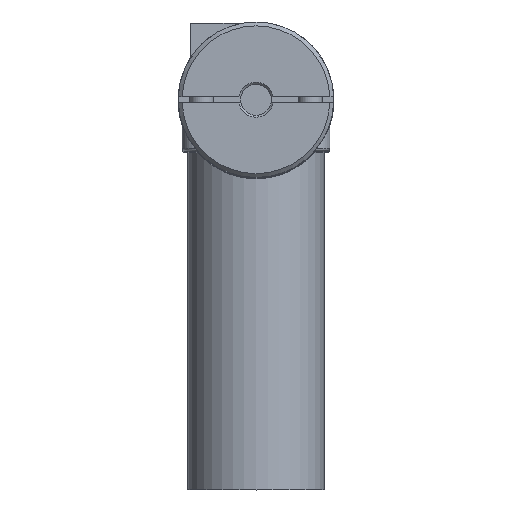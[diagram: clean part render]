
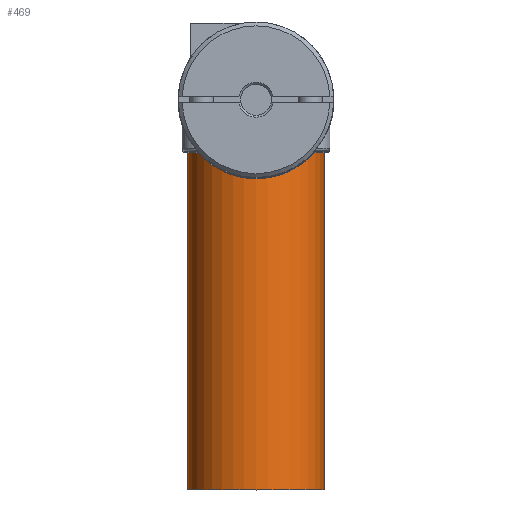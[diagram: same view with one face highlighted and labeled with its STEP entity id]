
A CAD part, top view. The second image highlights one B-rep face of the part: STEP entity #469.
In plain terms, the highlighted cylindrical face has radius 17.5 mm (diameter 35 mm), a full revolution.
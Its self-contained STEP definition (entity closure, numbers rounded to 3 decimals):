
#469 = ADVANCED_FACE( '', ( #950, #951 ), #952, .T. );
#950 = FACE_OUTER_BOUND( '', #1429, .T. );
#951 = FACE_OUTER_BOUND( '', #1430, .T. );
#952 = CYLINDRICAL_SURFACE( '', #1431, 17.5 );
#1429 = EDGE_LOOP( '', ( #2705 ) );
#1430 = EDGE_LOOP( '', ( #2706 ) );
#1431 = AXIS2_PLACEMENT_3D( '', #2707, #2708, #2709 );
#2705 = ORIENTED_EDGE( '', *, *, #3533, .T. );
#2706 = ORIENTED_EDGE( '', *, *, #3534, .F. );
#2707 = CARTESIAN_POINT( '', ( 0., -100., 0. ) );
#2708 = DIRECTION( '', ( 0., -1., 0. ) );
#2709 = DIRECTION( '', ( 0., 0., 1. ) );
#3533 = EDGE_CURVE( '', #4218, #4218, #4219, .T. );
#3534 = EDGE_CURVE( '', #4220, #4220, #4221, .T. );
#4218 = VERTEX_POINT( '', #5518 );
#4219 = CIRCLE( '', #5519, 17.5 );
#4220 = VERTEX_POINT( '', #5520 );
#4221 = CIRCLE( '', #5521, 17.5 );
#5518 = CARTESIAN_POINT( '', ( 17.5, -100., 0. ) );
#5519 = AXIS2_PLACEMENT_3D( '', #6382, #6383, #6384 );
#5520 = CARTESIAN_POINT( '', ( 17.5, 0., 0. ) );
#5521 = AXIS2_PLACEMENT_3D( '', #6385, #6386, #6387 );
#6382 = CARTESIAN_POINT( '', ( 0., -100., 0. ) );
#6383 = DIRECTION( '', ( 0., 1., 0. ) );
#6384 = DIRECTION( '', ( 1., 0., 0. ) );
#6385 = CARTESIAN_POINT( '', ( 0., 0., 0. ) );
#6386 = DIRECTION( '', ( 0., 1., 0. ) );
#6387 = DIRECTION( '', ( 1., 0., 0. ) );
